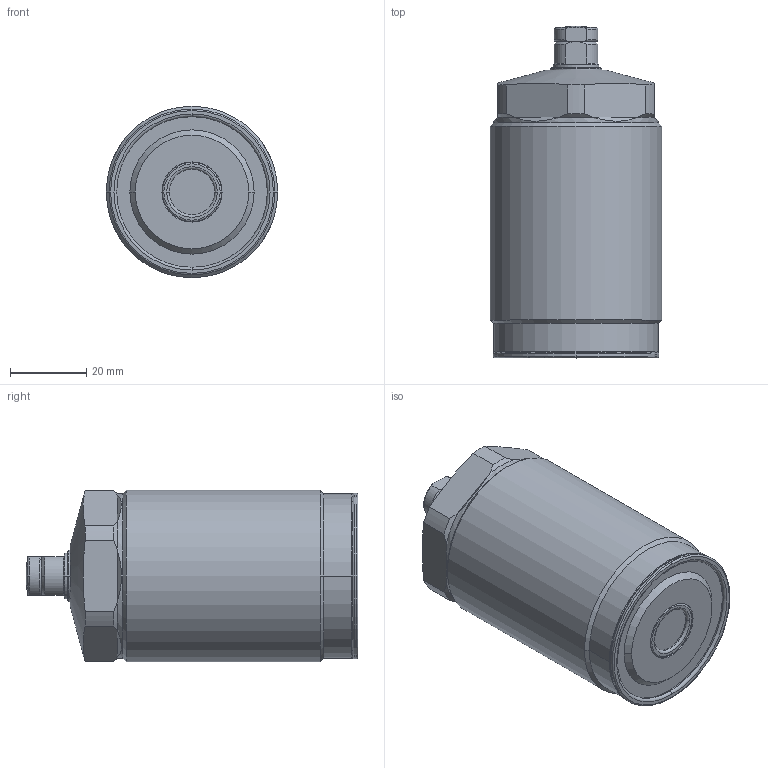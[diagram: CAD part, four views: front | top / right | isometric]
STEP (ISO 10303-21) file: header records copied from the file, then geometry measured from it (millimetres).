
FILE_DESCRIPTION(/* description */ (''),/* implementation_level */ '2;1');
FILE_NAME(/* name */ 'TNL45.stp',/* time_stamp */ '2025-01-09T09:41:18+08:00',/* author */ (''),/* organization */ (''),/* preprocessor_version */ 'ST-DEVELOPER v16.7',/* originating_system */ 'SIEMENS PLM Software NX 12.0',/* authorisation */ '');
FILE_SCHEMA (('AUTOMOTIVE_DESIGN { 1 0 10303 214 3 1 1 1 }'));
Length unit declared in the file: millimetre
Products named in the file (7): XLD-M8_contactbolt; XLD-M8_Oring; TNL45-001; TNL45-04; TNL45-02; TNL45-03; TNL45_stp
Assembly tree (6 placements, depth 3):
  TNL45_stp
    TNL45-02
    TNL45-04
    TNL45-03
      XLD-M8_Oring
      XLD-M8_contactbolt
    TNL45-001
Bounding box: 45 x 87 x 45 mm (x, y, z)
Volume: 114968.8 mm3; surface area: 15658.1 mm2
Topology: 5 solids, 5 shells, 141 faces, 308 edges, 185 vertices
Faces by surface type: cylinder 42, torus 38, plane 35, cone 24, sphere 2
Full cylindrical faces by diameter (mm): 43.2 x1, 45 x1
Entity records: 4192 total; most frequent: CARTESIAN_POINT 849, DIRECTION 762, ORIENTED_EDGE 608, AXIS2_PLACEMENT_3D 342, EDGE_CURVE 304, CIRCLE 188, VERTEX_POINT 185, EDGE_LOOP 159
